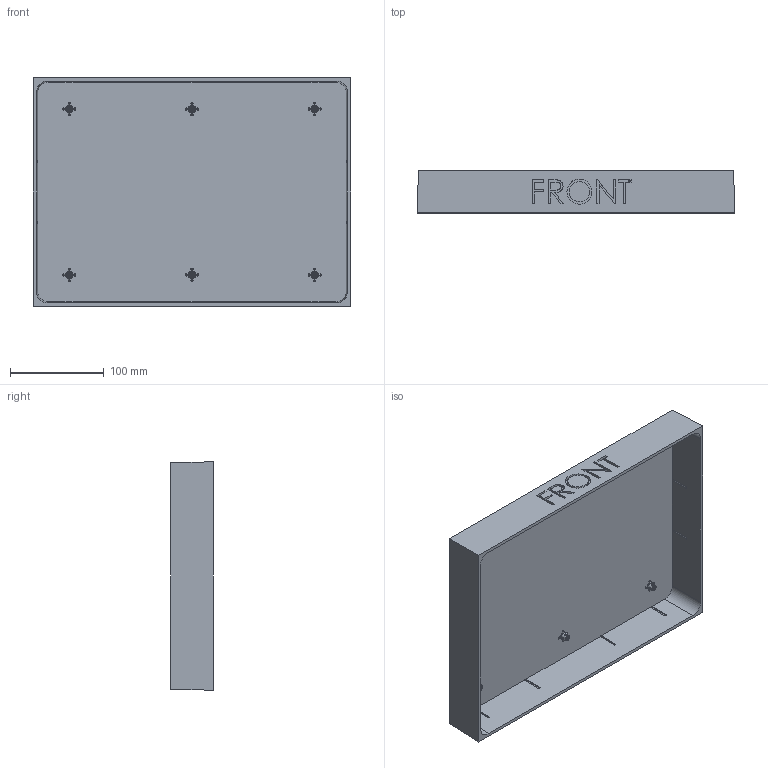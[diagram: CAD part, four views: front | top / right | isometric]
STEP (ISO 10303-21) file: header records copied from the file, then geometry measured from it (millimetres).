
FILE_DESCRIPTION (( 'STEP AP203' ), '1' );
FILE_NAME ('lid inside type 3000.STEP', '2023-03-13T07:19:44', ( '' ), ( '' ), 'SwSTEP 2.0', 'SolidWorks 2022', '' );
FILE_SCHEMA (( 'CONFIG_CONTROL_DESIGN' ));
Length unit declared in the file: millimetre
Products named in the file (1): lid inside type 3000
Bounding box: 339 x 45 x 244 mm (x, y, z)
Volume: 455743.1 mm3; surface area: 264480.8 mm2
Topology: 1 solids, 1 shells, 718 faces, 1668 edges, 972 vertices
Faces by surface type: bspline 253, plane 153, cylinder 124, torus 84, cone 56, sphere 48
Entity records: 25619 total; most frequent: CARTESIAN_POINT 11172, ORIENTED_EDGE 3336, DIRECTION 2726, EDGE_CURVE 1668, AXIS2_PLACEMENT_3D 1130, VERTEX_POINT 972, EDGE_LOOP 738, FACE_OUTER_BOUND 718
